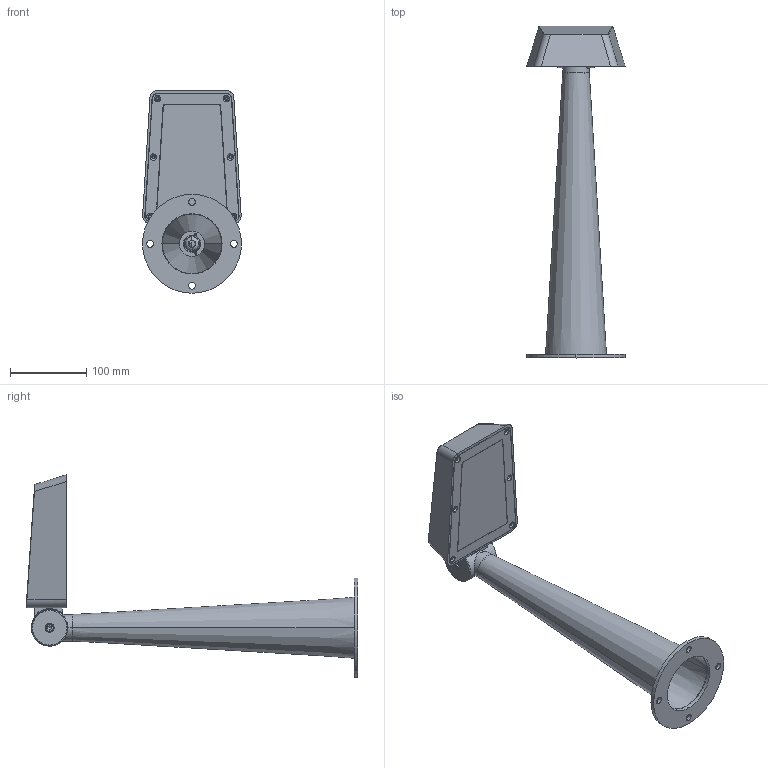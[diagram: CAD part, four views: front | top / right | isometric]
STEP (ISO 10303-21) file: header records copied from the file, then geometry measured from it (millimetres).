
FILE_DESCRIPTION((''),'2;1');
FILE_NAME('9AZ-DANTOU_ASM','2024-09-19T',('Administrator'),(''),'CREO PARAMETRIC BY PTC INC, 2014500','CREO PARAMETRIC BY PTC INC, 2014500','');
FILE_SCHEMA(('CONFIG_CONTROL_DESIGN'));
Products named in the file (31): ___B_W_O3_ANY-6905_ASM_4_ASM_AN_ASM; ___B_W_O____B_W____X__________A_ASM; ___B_W_O3_ANY-17482_ASM_4_ASM_A_ASM; DENGTIZUJIAN_ASM; _9AV-_____; ZHUIGUAN_ASM; 9AV-LIGHTING_ASM; MG_86_120_ANY; 9AV-XINDT; SANREBAN; 3DJ-SANREKUAI; LVJIBAN; 20W-QUDONG; TOUGUANGZHAO-A; XIN-LVJBAN-01; LENS-JY-AAD0410P-50503D_; GY-005_ASM; FGQUAN; M2-5-16; BTCNMUZUHE-DIYA; 9AV__120_J_______O_Y_ANY_ASM; SOCKET_HEAD_CAP_SCREW_ISO_ISO_4; ____1-17486; ____-____2-81358; 9AV-9AY___B_W_O______W___-30115_ASM; 9AY-DIBAN; XINZHUANZHOU; 9AV-CHANJIEPIAN; PG9; 9AV-9AY-DANTOU_ASM; 9AZ-DANTOU_ASM
Assembly tree (34 placements, depth 5):
  9AZ-DANTOU_ASM
    9AV-LIGHTING_ASM
      DENGTIZUJIAN_ASM
        ___B_W_O3_ANY-17482_ASM_4_ASM_A_ASM
          ___B_W_O3_ANY-6905_ASM_4_ASM_AN_ASM
          ___B_W_O____B_W____X__________A_ASM
      ZHUIGUAN_ASM
        _9AV-_____
    9AV__120_J_______O_Y_ANY_ASM
      MG_86_120_ANY
      9AV-XINDT
      SANREBAN
      3DJ-SANREKUAI
      LVJIBAN
      20W-QUDONG
      TOUGUANGZHAO-A
      GY-005_ASM  x2
        XIN-LVJBAN-01
        LENS-JY-AAD0410P-50503D_
      FGQUAN
      M2-5-16  x4
      BTCNMUZUHE-DIYA
    SOCKET_HEAD_CAP_SCREW_ISO_ISO_4
    9AV-9AY-DANTOU_ASM
      9AV-9AY___B_W_O______W___-30115_ASM
        ____1-17486
        ____-____2-81358
      9AY-DIBAN
      XINZHUANZHOU
      9AV-CHANJIEPIAN
      PG9
Bounding box: 130 x 436 x 266.09 mm (x, y, z)
Volume: 587458.8 mm3; surface area: 477103 mm2
Topology: 24 solids, 24 shells, 2551 faces, 6738 edges, 4323 vertices
Faces by surface type: plane 1193, cylinder 651, cone 268, bspline 204, torus 100, extrusion 87, revolution 32, sphere 16
Entity records: 82666 total; most frequent: CARTESIAN_POINT 28192, ORIENTED_EDGE 11516, DIRECTION 10916, EDGE_CURVE 5758, AXIS2_PLACEMENT_3D 3813, VERTEX_POINT 3747, VECTOR 3274, LINE 3196
